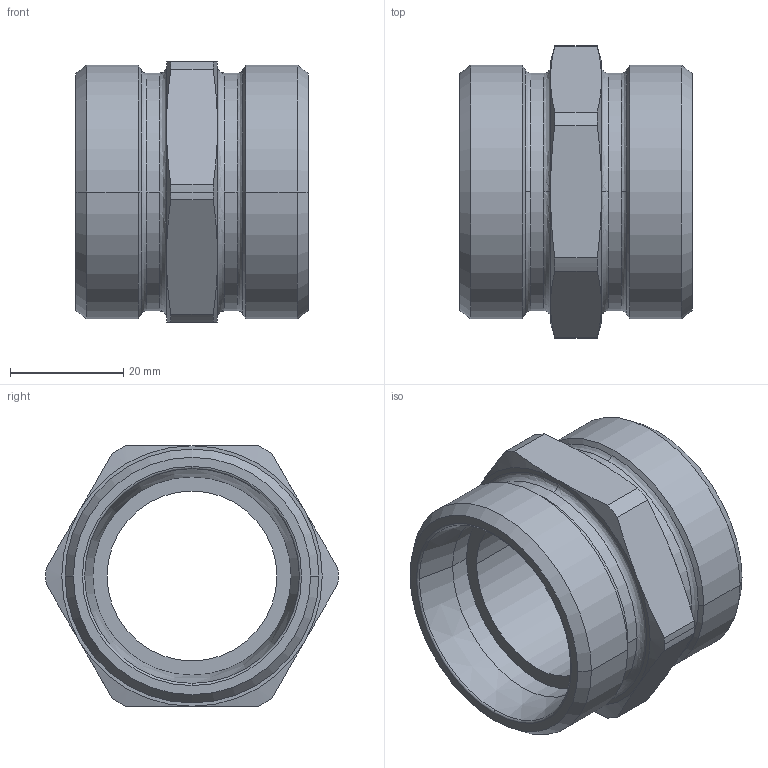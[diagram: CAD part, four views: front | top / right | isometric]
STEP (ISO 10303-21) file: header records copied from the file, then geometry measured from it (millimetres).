
FILE_DESCRIPTION((''),'2;1');
FILE_NAME('103512.stp','2007-10-31T11:33:48',(''),(''),'AutoCAD STEP 2000i','AutoCAD 2000i',', , ');
FILE_SCHEMA(('CONFIG_CONTROL_DESIGN'));
Length unit declared in the file: millimetre
Products named in the file (2): 103512.0; CHIAVE SMUSSATA#0
Assembly tree (1 placements, depth 2):
  103512.0
    CHIAVE SMUSSATA#0
Bounding box: 41 x 51.6 x 46 mm (x, y, z)
Volume: 29068.6 mm3; surface area: 12094.2 mm2
Topology: 1 solids, 1 shells, 70 faces, 172 edges, 108 vertices
Faces by surface type: cone 24, cylinder 22, plane 12, bspline 8, torus 4
Entity records: 2513 total; most frequent: CARTESIAN_POINT 752, DIRECTION 384, ORIENTED_EDGE 344, AXIS2_PLACEMENT_3D 172, EDGE_CURVE 172, VERTEX_POINT 108, CIRCLE 108, EDGE_LOOP 76
